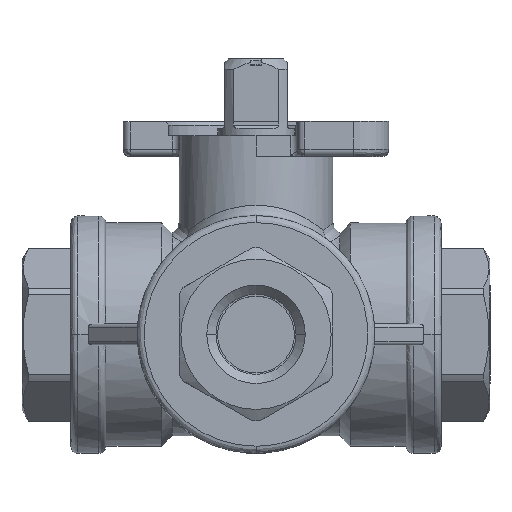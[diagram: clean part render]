
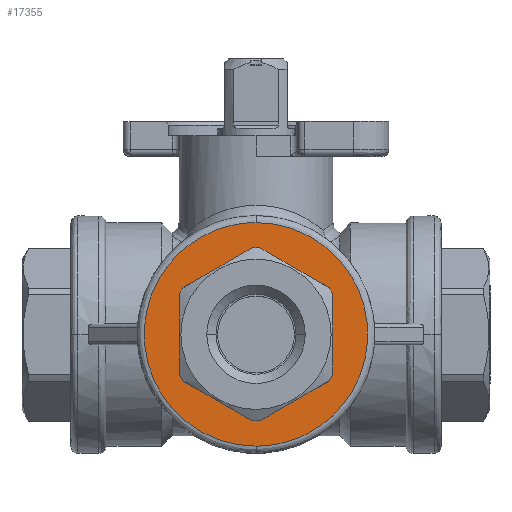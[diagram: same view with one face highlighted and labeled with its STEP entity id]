
A CAD part, top view. The second image highlights one B-rep face of the part: STEP entity #17355.
In plain terms, the highlighted planar face has unit normal (0, 0, 1) as drawn and (1, 0, 0) by its records, which use the part's own axes.
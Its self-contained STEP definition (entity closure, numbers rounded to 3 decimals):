
#275 = DIRECTION ( 'NONE',  ( 0., -0.5, 0.866 ) ) ;
#337 = VERTEX_POINT ( 'NONE', #7948 ) ;
#361 = DIRECTION ( 'NONE',  ( 0., 0., 1. ) ) ;
#369 = DIRECTION ( 'NONE',  ( 0., -0.5, -0.866 ) ) ;
#694 = DIRECTION ( 'NONE',  ( 0., 0., 1. ) ) ;
#755 = CARTESIAN_POINT ( 'NONE',  ( 26.5, 0., 0. ) ) ;
#786 = CARTESIAN_POINT ( 'NONE',  ( 26.5, -5.724, -11. ) ) ;
#815 = ORIENTED_EDGE ( 'NONE', *, *, #3740, .F. ) ;
#817 = EDGE_CURVE ( 'NONE', #6177, #337, #14056, .T. ) ;
#920 = DIRECTION ( 'NONE',  ( 0., 1., 0. ) ) ;
#1374 = ORIENTED_EDGE ( 'NONE', *, *, #5090, .F. ) ;
#1481 = AXIS2_PLACEMENT_3D ( 'NONE', #12779, #4607, #14122 ) ;
#1666 = VECTOR ( 'NONE', #9412, 1000. ) ;
#1752 = CIRCLE ( 'NONE', #11642, 12.4 ) ;
#1845 = CARTESIAN_POINT ( 'NONE',  ( 26.5, -12.388, -0.543 ) ) ;
#2037 = CARTESIAN_POINT ( 'NONE',  ( 26.5, -16., 32. ) ) ;
#2089 = CARTESIAN_POINT ( 'NONE',  ( 26.5, -16., 0. ) ) ;
#2102 = DIRECTION ( 'NONE',  ( 0., 0., 1. ) ) ;
#2939 = EDGE_CURVE ( 'NONE', #12918, #13532, #1752, .T. ) ;
#3371 = ORIENTED_EDGE ( 'NONE', *, *, #5138, .F. ) ;
#3410 = DIRECTION ( 'NONE',  ( 0., 0.5, 0.866 ) ) ;
#3683 = CARTESIAN_POINT ( 'NONE',  ( 26.5, 12.388, 0.543 ) ) ;
#3740 = EDGE_CURVE ( 'NONE', #12488, #14971, #9068, .T. ) ;
#3901 = EDGE_CURVE ( 'NONE', #9783, #9727, #8515, .T. ) ;
#3925 = CIRCLE ( 'NONE', #6785, 12.4 ) ;
#4194 = VECTOR ( 'NONE', #4718, 1000. ) ;
#4589 = VERTEX_POINT ( 'NONE', #14826 ) ;
#4607 = DIRECTION ( 'NONE',  ( 1., 0., 0. ) ) ;
#4718 = DIRECTION ( 'NONE',  ( 0., 0.5, -0.866 ) ) ;
#4819 = VECTOR ( 'NONE', #3410, 1000. ) ;
#4860 = CARTESIAN_POINT ( 'NONE',  ( 26.5, 16., 32. ) ) ;
#5090 = EDGE_CURVE ( 'NONE', #13981, #9783, #5246, .T. ) ;
#5138 = EDGE_CURVE ( 'NONE', #337, #6177, #7077, .T. ) ;
#5246 = LINE ( 'NONE', #15641, #4819 ) ;
#5441 = CARTESIAN_POINT ( 'NONE',  ( 26.5, -16., -32. ) ) ;
#5604 = LINE ( 'NONE', #16677, #16034 ) ;
#5791 = ORIENTED_EDGE ( 'NONE', *, *, #6768, .F. ) ;
#5804 = CARTESIAN_POINT ( 'NONE',  ( 26.5, 0., 0. ) ) ;
#5890 = VERTEX_POINT ( 'NONE', #6485 ) ;
#6047 = VECTOR ( 'NONE', #920, 1000. ) ;
#6140 = CARTESIAN_POINT ( 'NONE',  ( 26.5, 14.7, 0. ) ) ;
#6177 = VERTEX_POINT ( 'NONE', #8537 ) ;
#6369 = ORIENTED_EDGE ( 'NONE', *, *, #8657, .F. ) ;
#6403 = VERTEX_POINT ( 'NONE', #9018 ) ;
#6461 = CARTESIAN_POINT ( 'NONE',  ( 26.5, 6.664, -10.457 ) ) ;
#6473 = ORIENTED_EDGE ( 'NONE', *, *, #9585, .F. ) ;
#6485 = CARTESIAN_POINT ( 'NONE',  ( 26.5, -12.388, 0.543 ) ) ;
#6630 = DIRECTION ( 'NONE',  ( 1., 0., 0. ) ) ;
#6768 = EDGE_CURVE ( 'NONE', #16503, #4589, #9846, .T. ) ;
#6785 = AXIS2_PLACEMENT_3D ( 'NONE', #16665, #8546, #361 ) ;
#6803 = CARTESIAN_POINT ( 'NONE',  ( 26.5, -16., 0. ) ) ;
#7077 =( BOUNDED_CURVE ( )  B_SPLINE_CURVE ( 3, ( #2089, #2037, #4860, #14388 ),
 .UNSPECIFIED., .F., .F. ) 
 B_SPLINE_CURVE_WITH_KNOTS ( ( 4, 4 ),
 ( 0., 1. ),
 .UNSPECIFIED. ) 
 CURVE ( )  GEOMETRIC_REPRESENTATION_ITEM ( )  RATIONAL_B_SPLINE_CURVE ( ( 1., 0.333, 0.333, 1. ) ) 
 REPRESENTATION_ITEM ( '' )  );
#7166 = EDGE_CURVE ( 'NONE', #9727, #16503, #12148, .T. ) ;
#7181 = DIRECTION ( 'NONE',  ( 0., 0., 1. ) ) ;
#7509 = DIRECTION ( 'NONE',  ( 0., 0., 1. ) ) ;
#7528 = FACE_OUTER_BOUND ( 'NONE', #10427, .T. ) ;
#7538 = CARTESIAN_POINT ( 'NONE',  ( 26.5, 5.724, -11. ) ) ;
#7948 = CARTESIAN_POINT ( 'NONE',  ( 26.5, -16., 0. ) ) ;
#7968 = EDGE_LOOP ( 'NONE', ( #10499, #6369, #9124, #16348, #5791, #8059, #10986, #1374, #8466, #17541, #815, #6473 ) ) ;
#8059 = ORIENTED_EDGE ( 'NONE', *, *, #7166, .F. ) ;
#8103 = CARTESIAN_POINT ( 'NONE',  ( 26.5, 6.664, 10.457 ) ) ;
#8309 = VERTEX_POINT ( 'NONE', #7538 ) ;
#8466 = ORIENTED_EDGE ( 'NONE', *, *, #10198, .F. ) ;
#8515 = CIRCLE ( 'NONE', #16569, 12.4 ) ;
#8537 = CARTESIAN_POINT ( 'NONE',  ( 26.5, 16., 0. ) ) ;
#8546 = DIRECTION ( 'NONE',  ( 1., 0., 0. ) ) ;
#8657 = EDGE_CURVE ( 'NONE', #13532, #5890, #5604, .T. ) ;
#8746 = CIRCLE ( 'NONE', #12232, 12.4 ) ;
#8899 = DIRECTION ( 'NONE',  ( 1., 0., 0. ) ) ;
#9018 = CARTESIAN_POINT ( 'NONE',  ( 26.5, -12.388, -0.543 ) ) ;
#9068 = CIRCLE ( 'NONE', #11452, 12.4 ) ;
#9124 = ORIENTED_EDGE ( 'NONE', *, *, #2939, .F. ) ;
#9412 = DIRECTION ( 'NONE',  ( 0., -1., 0. ) ) ;
#9503 = CARTESIAN_POINT ( 'NONE',  ( 26.5, -6.664, 10.457 ) ) ;
#9585 = EDGE_CURVE ( 'NONE', #6403, #12488, #11447, .T. ) ;
#9727 = VERTEX_POINT ( 'NONE', #3683 ) ;
#9783 = VERTEX_POINT ( 'NONE', #15021 ) ;
#9845 = CARTESIAN_POINT ( 'NONE',  ( 26.5, 12.388, 0.543 ) ) ;
#9846 = CIRCLE ( 'NONE', #1481, 12.4 ) ;
#10148 = PLANE ( 'NONE',  #14464 ) ;
#10198 = EDGE_CURVE ( 'NONE', #8309, #13981, #3925, .T. ) ;
#10303 = DIRECTION ( 'NONE',  ( 1., 0., 0. ) ) ;
#10426 = EDGE_CURVE ( 'NONE', #14971, #8309, #14563, .T. ) ;
#10427 = EDGE_LOOP ( 'NONE', ( #3371, #14538 ) ) ;
#10499 = ORIENTED_EDGE ( 'NONE', *, *, #11843, .F. ) ;
#10822 = CARTESIAN_POINT ( 'NONE',  ( 26.5, -5.724, 11. ) ) ;
#10986 = ORIENTED_EDGE ( 'NONE', *, *, #3901, .F. ) ;
#11447 = LINE ( 'NONE', #1845, #4194 ) ;
#11452 = AXIS2_PLACEMENT_3D ( 'NONE', #5804, #15340, #7181 ) ;
#11642 = AXIS2_PLACEMENT_3D ( 'NONE', #14794, #6630, #16170 ) ;
#11843 = EDGE_CURVE ( 'NONE', #5890, #6403, #8746, .T. ) ;
#11954 = EDGE_CURVE ( 'NONE', #4589, #12918, #12141, .T. ) ;
#12141 = LINE ( 'NONE', #17519, #1666 ) ;
#12148 = LINE ( 'NONE', #9845, #15762 ) ;
#12232 = AXIS2_PLACEMENT_3D ( 'NONE', #755, #10303, #2102 ) ;
#12488 = VERTEX_POINT ( 'NONE', #15365 ) ;
#12779 = CARTESIAN_POINT ( 'NONE',  ( 26.5, 0., 0. ) ) ;
#12918 = VERTEX_POINT ( 'NONE', #10822 ) ;
#13181 = CARTESIAN_POINT ( 'NONE',  ( 26.5, 14.7, -11. ) ) ;
#13532 = VERTEX_POINT ( 'NONE', #9503 ) ;
#13981 = VERTEX_POINT ( 'NONE', #6461 ) ;
#14056 =( BOUNDED_CURVE ( )  B_SPLINE_CURVE ( 3, ( #16257, #17482, #5441, #6803 ),
 .UNSPECIFIED., .F., .F. ) 
 B_SPLINE_CURVE_WITH_KNOTS ( ( 4, 4 ),
 ( 0., 1. ),
 .UNSPECIFIED. ) 
 CURVE ( )  GEOMETRIC_REPRESENTATION_ITEM ( )  RATIONAL_B_SPLINE_CURVE ( ( 1., 0.333, 0.333, 1. ) ) 
 REPRESENTATION_ITEM ( '' )  );
#14122 = DIRECTION ( 'NONE',  ( 0., 0., 1. ) ) ;
#14388 = CARTESIAN_POINT ( 'NONE',  ( 26.5, 16., 0. ) ) ;
#14464 = AXIS2_PLACEMENT_3D ( 'NONE', #6140, #15675, #7509 ) ;
#14538 = ORIENTED_EDGE ( 'NONE', *, *, #817, .F. ) ;
#14563 = LINE ( 'NONE', #13181, #6047 ) ;
#14760 = FACE_BOUND ( 'NONE', #7968, .T. ) ;
#14794 = CARTESIAN_POINT ( 'NONE',  ( 26.5, 0., 0. ) ) ;
#14826 = CARTESIAN_POINT ( 'NONE',  ( 26.5, 5.724, 11. ) ) ;
#14971 = VERTEX_POINT ( 'NONE', #786 ) ;
#15021 = CARTESIAN_POINT ( 'NONE',  ( 26.5, 12.388, -0.543 ) ) ;
#15340 = DIRECTION ( 'NONE',  ( 1., 0., 0. ) ) ;
#15365 = CARTESIAN_POINT ( 'NONE',  ( 26.5, -6.664, -10.457 ) ) ;
#15641 = CARTESIAN_POINT ( 'NONE',  ( 26.5, 6.664, -10.457 ) ) ;
#15675 = DIRECTION ( 'NONE',  ( -1., 0., 0. ) ) ;
#15762 = VECTOR ( 'NONE', #275, 1000. ) ;
#16034 = VECTOR ( 'NONE', #369, 1000. ) ;
#16170 = DIRECTION ( 'NONE',  ( 0., 0., 1. ) ) ;
#16257 = CARTESIAN_POINT ( 'NONE',  ( 26.5, 16., 0. ) ) ;
#16348 = ORIENTED_EDGE ( 'NONE', *, *, #11954, .F. ) ;
#16503 = VERTEX_POINT ( 'NONE', #8103 ) ;
#16569 = AXIS2_PLACEMENT_3D ( 'NONE', #17011, #8899, #694 ) ;
#16665 = CARTESIAN_POINT ( 'NONE',  ( 26.5, 0., 0. ) ) ;
#16677 = CARTESIAN_POINT ( 'NONE',  ( 26.5, -6.664, 10.457 ) ) ;
#17011 = CARTESIAN_POINT ( 'NONE',  ( 26.5, 0., 0. ) ) ;
#17355 = ADVANCED_FACE ( 'NONE', ( #14760, #7528 ), #10148, .F. ) ;
#17482 = CARTESIAN_POINT ( 'NONE',  ( 26.5, 16., -32. ) ) ;
#17519 = CARTESIAN_POINT ( 'NONE',  ( 26.5, 14.7, 11. ) ) ;
#17541 = ORIENTED_EDGE ( 'NONE', *, *, #10426, .F. ) ;
